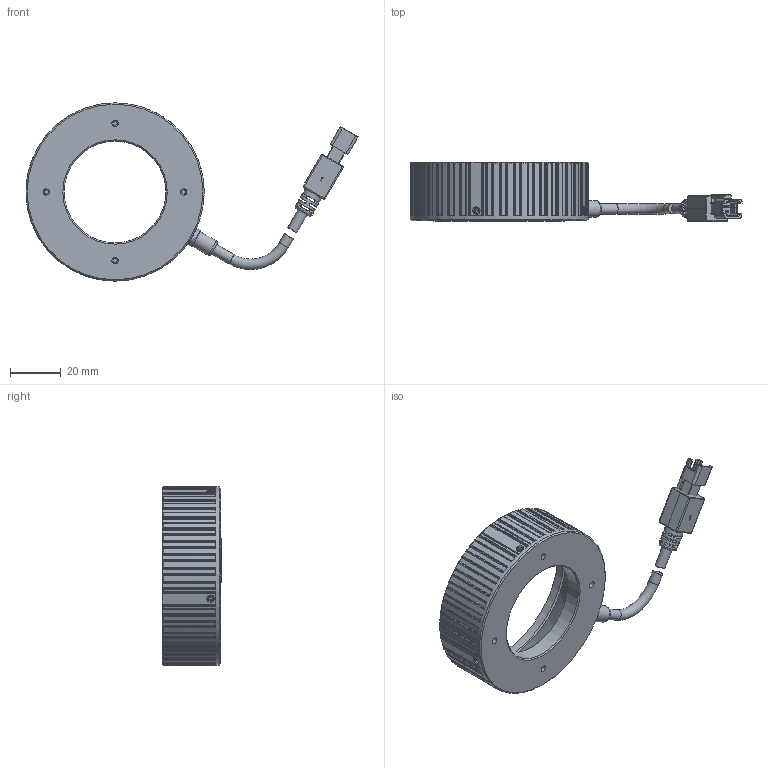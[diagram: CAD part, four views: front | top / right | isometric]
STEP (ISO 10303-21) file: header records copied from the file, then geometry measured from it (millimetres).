
FILE_DESCRIPTION (( 'STEP AP203' ), '1' );
FILE_NAME ('OPT-IRI7060-IR-V1.0尨砩芞.STEP', '2024-12-17T06:39:00', ( '' ), ( '' ), 'SwSTEP 2.0', 'SolidWorks 2016', '' );
FILE_SCHEMA (( 'CONFIG_CONTROL_DESIGN' ));
Length unit declared in the file: millimetre
Products named in the file (1): OPT-IRI7060-IR-V1.0尨砩芞
Bounding box: 130.49 x 23.35 x 70 mm (x, y, z)
Surface area: 19990.5 mm2 (no closed solid volume)
Topology: 0 solids, 7 shells, 658 faces, 1854 edges, 1203 vertices
Faces by surface type: plane 301, cylinder 255, cone 79, bspline 15, torus 8
Full cylindrical faces by diameter (mm): 1.1 x4, 1.4 x4, 2 x4, 2.2 x4, 2.5 x4, 4.1 x3, 5.8 x1, 6.5 x1, 7 x1, 7.5 x1, 40 x1, 62 x1, 66 x1, 70 x1
Entity records: 22314 total; most frequent: CARTESIAN_POINT 6224, ORIENTED_EDGE 3430, DIRECTION 3118, EDGE_CURVE 1754, VERTEX_POINT 1174, AXIS2_PLACEMENT_3D 1134, LINE 850, VECTOR 850
